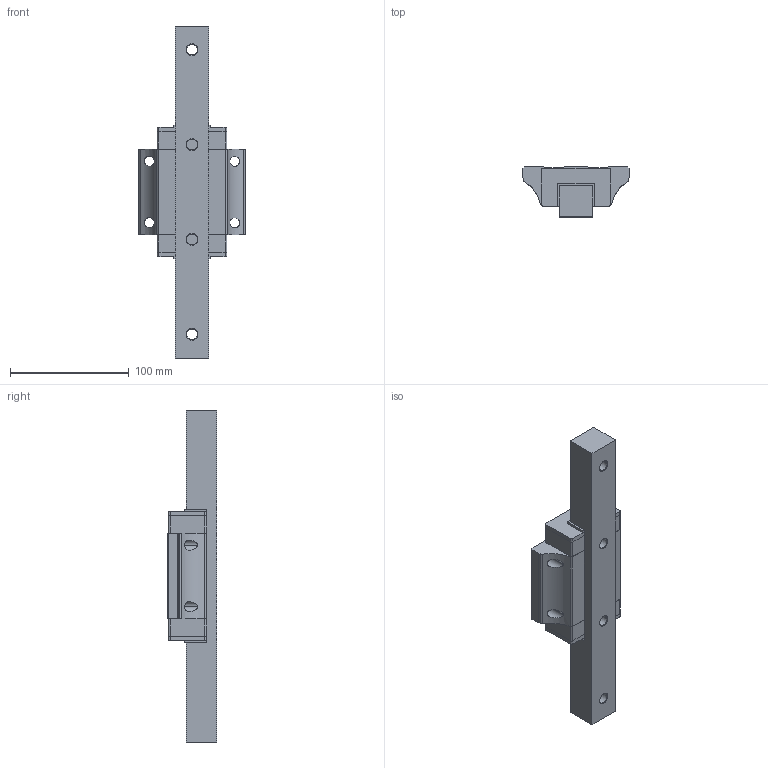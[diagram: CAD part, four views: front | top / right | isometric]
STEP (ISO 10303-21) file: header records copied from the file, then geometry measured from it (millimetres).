
FILE_DESCRIPTION( ( 'STEP File Generated from CADKEY Workshop EX' ), '1' );
FILE_NAME( 'Part1', '2004-11-06T00:04:06', ( 'CADKEY USER' ), ( 'CADKEY CORPORATION' ), 'ACIS Interop R11 SP4', 'CADKEY Workshop EX V21.05.02 (0359)', 'CK' );
FILE_SCHEMA( ( 'CONFIG_CONTROL_DESIGN' ) );
Length unit declared in the file: millimetre
Products named in the file (6): 1; 2; 3; 4; 5; 6
Bounding box: 90 x 42 x 280 mm (x, y, z)
Volume: 387034.2 mm3; surface area: 78607.3 mm2
Topology: 6 solids, 6 shells, 144 faces, 368 edges, 240 vertices
Faces by surface type: plane 84, cylinder 44, cone 16
Entity records: 4869 total; most frequent: CARTESIAN_POINT 1006, DIRECTION 756, ORIENTED_EDGE 736, EDGE_CURVE 368, LINE 264, VECTOR 264, AXIS2_PLACEMENT_3D 246, VERTEX_POINT 240
